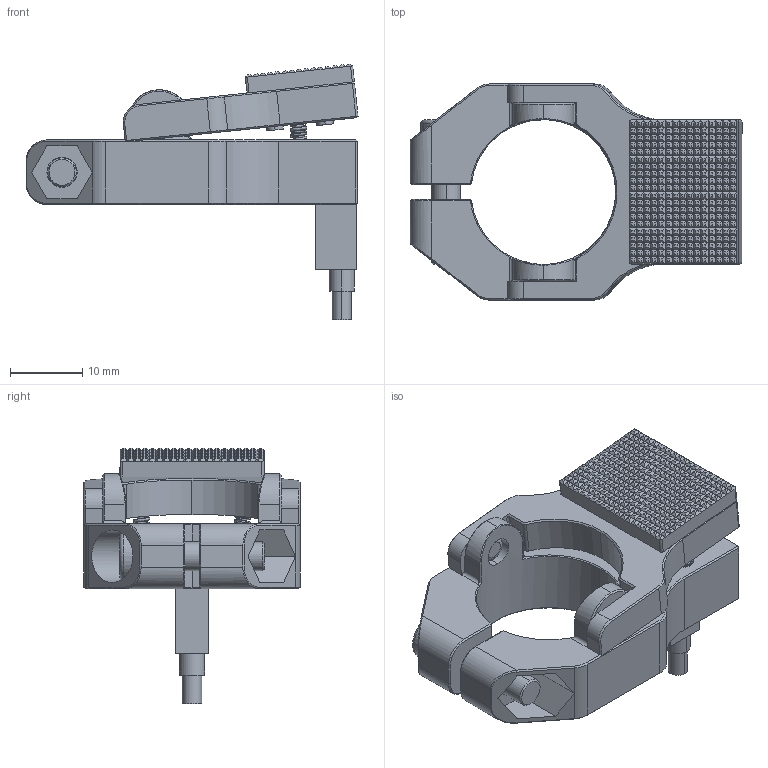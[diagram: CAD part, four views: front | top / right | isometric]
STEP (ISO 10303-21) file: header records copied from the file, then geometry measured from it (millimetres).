
FILE_DESCRIPTION (( 'STEP AP203' ), '1' );
FILE_NAME ('GFR20-棠俶標撿邡.STEP', '2024-08-27T09:13:32', ( 'Windows 蚚誧' ), ( 'Organization' ), 'SwSTEP 2.0', 'SolidWorks 2018', '' );
FILE_SCHEMA (( 'CONFIG_CONTROL_DESIGN' ));
Products named in the file (1): GFR20-棠俶標撿邡
Bounding box: 46.09 x 30 x 35.52 mm (x, y, z)
Volume: 9972 mm3; surface area: 7453 mm2
Topology: 1 solids, 2 shells, 1942 faces, 4086 edges, 2163 vertices
Faces by surface type: plane 1674, cylinder 114, cone 52, torus 51, bspline 50, sphere 1
Entity records: 69597 total; most frequent: CARTESIAN_POINT 29494, ORIENTED_EDGE 8148, DIRECTION 8030, EDGE_CURVE 4074, VECTOR 3528, LINE 3528, AXIS2_PLACEMENT_3D 2251, VERTEX_POINT 2162
